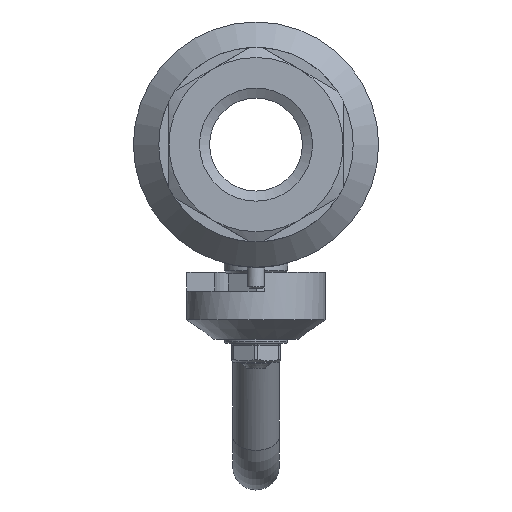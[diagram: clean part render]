
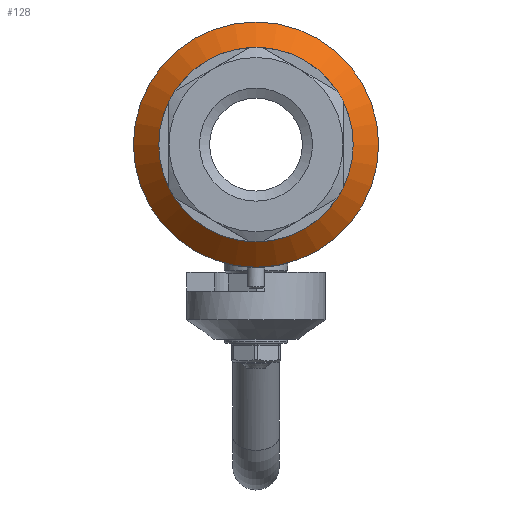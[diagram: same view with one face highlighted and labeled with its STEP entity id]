
A CAD part, left-side view. The second image highlights one B-rep face of the part: STEP entity #128.
In plain terms, the highlighted conical face has half-angle 45 degrees and reference radius 37.875 mm.
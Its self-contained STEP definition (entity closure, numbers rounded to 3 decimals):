
#128=ADVANCED_FACE('',(#1085),#1087,.T.);
#1085=FACE_OUTER_BOUND('',#1086,.T.);
#1086=EDGE_LOOP('',(#2184,#2185,#2186,#2187,#2188));
#1087=CONICAL_SURFACE('',#1088,37.875,0.785);
#1088=AXIS2_PLACEMENT_3D('',#1089,#1090,#1091);
#1089=CARTESIAN_POINT('',(-30.625,0.,0.));
#1090=DIRECTION('',(1.,0.,0.));
#1091=DIRECTION('',(0.,1.,0.));
#2184=ORIENTED_EDGE('',*,*,#3356,.F.);
#2185=ORIENTED_EDGE('',*,*,#3357,.F.);
#2186=ORIENTED_EDGE('',*,*,#3358,.T.);
#2187=ORIENTED_EDGE('',*,*,#3326,.T.);
#2188=ORIENTED_EDGE('',*,*,#3358,.F.);
#3326=EDGE_CURVE('',#3686,#3686,#3688,.T.);
#3356=EDGE_CURVE('',#3727,#3728,#3729,.T.);
#3357=EDGE_CURVE('',#3728,#3727,#3730,.T.);
#3358=EDGE_CURVE('',#3728,#3686,#3731,.T.);
#3686=VERTEX_POINT('',#4733);
#3688=CIRCLE('',#4737,42.25);
#3727=VERTEX_POINT('',#5104);
#3728=VERTEX_POINT('',#5105);
#3729=CIRCLE('',#5106,33.5);
#3730=CIRCLE('',#5110,33.5);
#3731=LINE('',#5114,#5115);
#4733=CARTESIAN_POINT('',(-26.25,-42.25,0.));
#4737=AXIS2_PLACEMENT_3D('',#4738,#4739,#4740);
#4738=CARTESIAN_POINT('',(-26.25,0.,0.));
#4739=DIRECTION('',(-1.,-0.,0.));
#4740=DIRECTION('',(0.,-1.,0.));
#5104=CARTESIAN_POINT('',(-35.,-29.012,16.75));
#5105=CARTESIAN_POINT('',(-35.,-33.5,0.));
#5106=AXIS2_PLACEMENT_3D('',#5107,#5108,#5109);
#5107=CARTESIAN_POINT('',(-35.,0.,0.));
#5108=DIRECTION('',(-1.,-0.,0.));
#5109=DIRECTION('',(0.,-0.866,0.5));
#5110=AXIS2_PLACEMENT_3D('',#5111,#5112,#5113);
#5111=CARTESIAN_POINT('',(-35.,0.,0.));
#5112=DIRECTION('',(-1.,-0.,0.));
#5113=DIRECTION('',(0.,-1.,0.));
#5114=CARTESIAN_POINT('',(-35.,-33.5,0.));
#5115=VECTOR('',#5116,1.);
#5116=DIRECTION('',(0.707,-0.707,0.));
